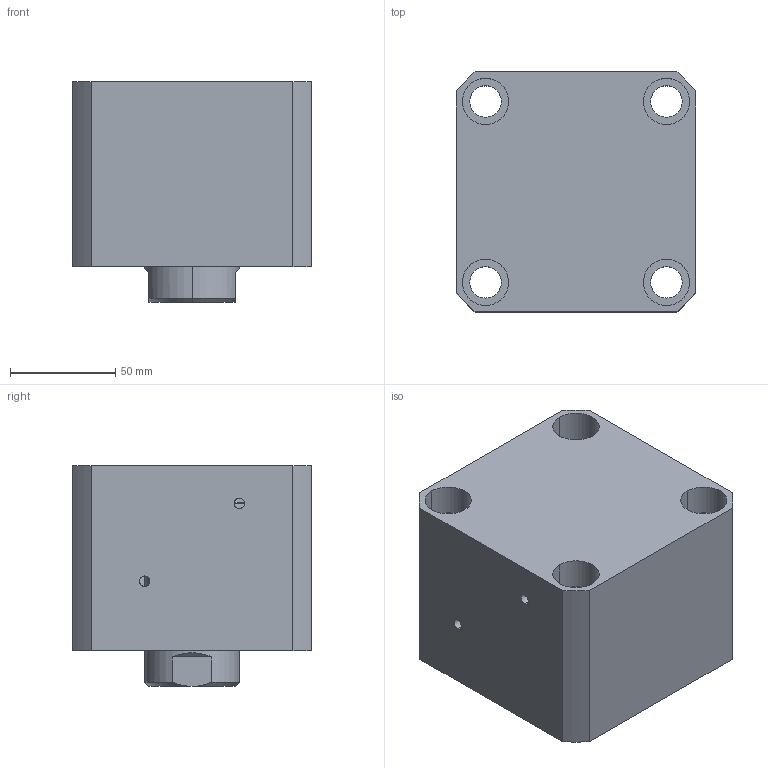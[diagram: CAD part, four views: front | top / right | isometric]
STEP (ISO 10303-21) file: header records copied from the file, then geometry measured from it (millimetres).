
FILE_DESCRIPTION (( 'STEP AP214' ), '1' );
FILE_NAME ('chtb-sdma80x10n_asm.STEP', '2018-05-29T02:24:38', ( 'Windows' ), ( 'Microsoft' ), 'SwSTEP 2.0', 'SolidWorks 2015', '' );
FILE_SCHEMA (( 'AUTOMOTIVE_DESIGN' ));
Length unit declared in the file: millimetre
Products named in the file (4): CHTB-SDMA80X10NBT; CHTB-SD80X10NHSG; CHTB-SD80QG; chtb-sdma80x10n_asm
Assembly tree (3 placements, depth 2):
  chtb-sdma80x10n_asm
    CHTB-SD80QG
    CHTB-SD80X10NHSG
    CHTB-SDMA80X10NBT
Bounding box: 114 x 114 x 105 mm (x, y, z)
Volume: 995393.9 mm3; surface area: 160715 mm2
Topology: 3 solids, 3 shells, 190 faces, 516 edges, 345 vertices
Faces by surface type: cylinder 107, plane 35, torus 18, cone 16, bspline 14
Entity records: 15170 total; most frequent: CARTESIAN_POINT 10463, ORIENTED_EDGE 1020, DIRECTION 879, EDGE_CURVE 510, AXIS2_PLACEMENT_3D 368, VERTEX_POINT 345, EDGE_LOOP 227, FACE_OUTER_BOUND 190
